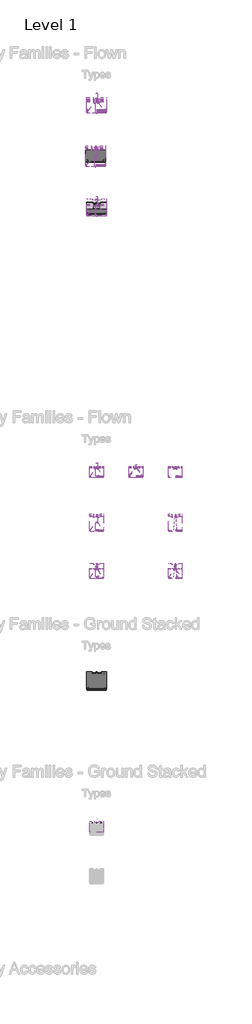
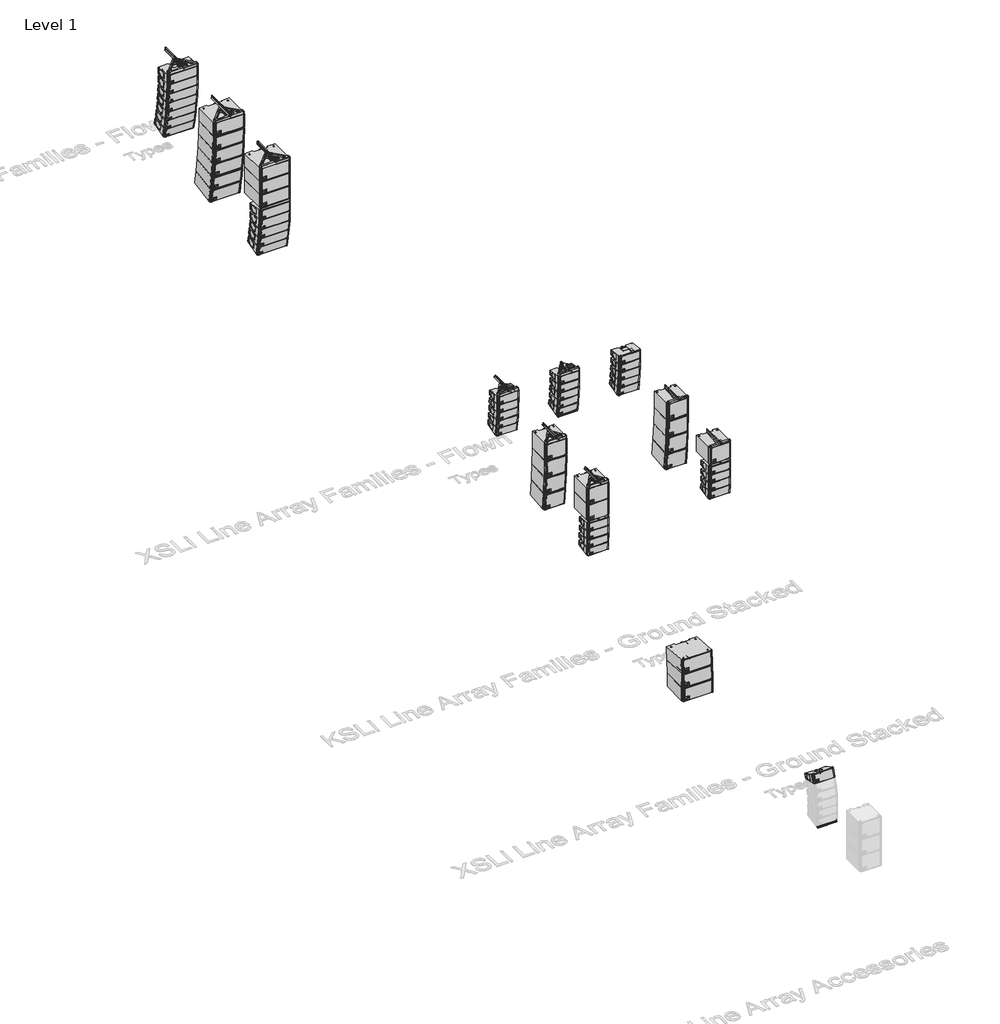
# One storey, part 3 of 52: 86 proxies.
"""IFC4 building model written with IfcOpenShell, lengths in millimetres."""

from ifc_helpers import new_model, si_unit, origin, place, context, project, spatial, transform, mapped, element, save
from components import xsl_adapter_frame_a1c6265e, xsl_adapter_frame_4c239690, communication_devices_4245e99e, communication_devices_117acdfe, communication_devices_14464fff, xsl_stacking_frame_c5b48331, xsl_stacking_frame_b9873154, communication_devices_1bfed97e, communication_devices_f4fcb6de, communication_devices_f9809a49, communication_devices_c673601c, xsl_sub_mounting_frame_72f05cd3, communication_devices_f2b9ca2b, xsl_compression_frame_79202efc, communication_devices_4d89ff1e, communication_devices_fb2c1ed3, ksl_load_beam_aa081bf2, communication_devices_b4faaad9, communication_devices_4359931a, communication_devices_46ae4256, communication_devices_b4759670, xsl_load_beam_7bbdde43

model = new_model("IFC4")

# Units and contexts
model_context = context("Model", 3, world=origin())
ifc_project = project(units=[si_unit("LENGTHUNIT", "METRE", prefix="MILLI")], contexts=[model_context])

# Site, building, storey
site = spatial("IfcSite", under=ifc_project)
building = spatial("IfcBuilding", under=site)
storey = spatial("IfcBuildingStorey", under=building, Name="Level 1", Elevation=0.0)

# Proxies
placement = place(None, origin())
xsl_adapter_frame_shape = xsl_adapter_frame_a1c6265e(model_context)
xsl_adapter_frame_2_shape = xsl_adapter_frame_4c239690(model_context)
element("IfcBuildingElementProxy", 1, Name="d&b SL-Series XSLi SUB Adapter Frame : XSLi SUB Adapter Frame", ObjectType="d&b SL-Series XSLi SUB Adapter Frame : XSLi SUB Adapter Frame", at=placement, inside=storey, context=model_context, shape_type="MappedRepresentation", body=[
    mapped(xsl_adapter_frame_shape, transform((20258.3565696, -28516.3691978, 3357.2130163), x_axis=(1.0, 0.0, 0.0), y_axis=(0.0, 1.0, 0.0), z_axis=(0.0, 0.0, 1.0))),
    mapped(xsl_adapter_frame_2_shape, transform((20258.3565696, -28516.3691978, 3357.2130163), x_axis=(1.0, 0.0, 0.0), y_axis=(0.0, 1.0, 0.0), z_axis=(0.0, 0.0, 1.0))),
])
element("IfcBuildingElementProxy", 2, Name="d&b SL-Series XSLi SUB Adapter Frame : XSLi SUB Adapter Frame", ObjectType="d&b SL-Series XSLi SUB Adapter Frame : XSLi SUB Adapter Frame", at=placement, inside=storey, context=model_context, shape_type="MappedRepresentation", body=[
    mapped(xsl_adapter_frame_shape, transform((16258.3565696, -28516.3691978, 2793.2130163), x_axis=(1.0, 0.0, 0.0), y_axis=(0.0, 1.0, 0.0), z_axis=(0.0, 0.0, 1.0))),
    mapped(xsl_adapter_frame_2_shape, transform((16258.3565696, -28516.3691978, 2793.2130163), x_axis=(1.0, 0.0, 0.0), y_axis=(0.0, 1.0, 0.0), z_axis=(0.0, 0.0, 1.0))),
])
communication_devices_shape = communication_devices_4245e99e(model_context)
communication_devices_2_shape = communication_devices_117acdfe(model_context)
communication_devices_3_shape = communication_devices_14464fff(model_context)
element("IfcBuildingElementProxy", 3, Name="d&b SL-Series XSLi : XSLi8", ObjectType="d&b SL-Series XSLi : XSLi8", at=placement, inside=storey, context=model_context, shape_type="MappedRepresentation", body=[
    mapped(communication_devices_shape, transform((15758.3565696, -23004.9862574, 3845.3), x_axis=(1.0000000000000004, 0.0, 0.0), y_axis=(0.0, 1.0000000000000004, 0.0), z_axis=(0.0, 0.0, 1.0))),
    mapped(communication_devices_2_shape, transform((15758.3565696, -23004.9862574, 3845.3), x_axis=(1.0000000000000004, 0.0, 0.0), y_axis=(0.0, 1.0000000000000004, 0.0), z_axis=(0.0, 0.0, 1.0))),
    mapped(communication_devices_3_shape, transform((15758.3565696, -23004.9862574, 3845.3), x_axis=(1.0000000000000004, 0.0, 0.0), y_axis=(0.0, 1.0000000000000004, 0.0), z_axis=(0.0, 0.0, 1.0))),
])
element("IfcBuildingElementProxy", 4, Name="d&b SL-Series XSLi : XSLi8", ObjectType="d&b SL-Series XSLi : XSLi8", at=placement, inside=storey, context=model_context, shape_type="MappedRepresentation", body=[
    mapped(communication_devices_shape, transform((15758.3565696, -22999.4148696, 3572.0554618), x_axis=(1.0000000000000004, 0.0, 0.0), y_axis=(0.0, 0.9993908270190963, 0.034899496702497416), z_axis=(0.0, -0.03489949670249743, 0.9993908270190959))),
    mapped(communication_devices_2_shape, transform((15758.3565696, -22999.4148696, 3572.0554618), x_axis=(1.0000000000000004, 0.0, 0.0), y_axis=(0.0, 0.9993908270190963, 0.034899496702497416), z_axis=(0.0, -0.03489949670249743, 0.9993908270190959))),
    mapped(communication_devices_3_shape, transform((15758.3565696, -22999.4148696, 3572.0554618), x_axis=(1.0000000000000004, 0.0, 0.0), y_axis=(0.0, 0.9993908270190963, 0.034899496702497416), z_axis=(0.0, -0.03489949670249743, 0.9993908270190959))),
])
element("IfcBuildingElementProxy", 5, Name="d&b SL-Series XSLi : XSLi8", ObjectType="d&b SL-Series XSLi : XSLi8", at=placement, inside=storey, context=model_context, shape_type="MappedRepresentation", body=[
    mapped(communication_devices_shape, transform((19758.3565696, -23004.9862574, 3845.3), x_axis=(1.0000000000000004, 0.0, 0.0), y_axis=(0.0, 1.0000000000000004, 0.0), z_axis=(0.0, 0.0, 1.0))),
    mapped(communication_devices_2_shape, transform((19758.3565696, -23004.9862574, 3845.3), x_axis=(1.0000000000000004, 0.0, 0.0), y_axis=(0.0, 1.0000000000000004, 0.0), z_axis=(0.0, 0.0, 1.0))),
    mapped(communication_devices_3_shape, transform((19758.3565696, -23004.9862574, 3845.3), x_axis=(1.0000000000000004, 0.0, 0.0), y_axis=(0.0, 1.0000000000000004, 0.0), z_axis=(0.0, 0.0, 1.0))),
])
element("IfcBuildingElementProxy", 6, Name="d&b SL-Series XSLi : XSLi8", ObjectType="d&b SL-Series XSLi : XSLi8", at=placement, inside=storey, context=model_context, shape_type="MappedRepresentation", body=[
    mapped(communication_devices_shape, transform((19758.3565696, -22999.4148696, 3572.0554618), x_axis=(1.0000000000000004, 0.0, 0.0), y_axis=(0.0, 0.9993908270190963, 0.034899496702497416), z_axis=(0.0, -0.03489949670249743, 0.9993908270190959))),
    mapped(communication_devices_2_shape, transform((19758.3565696, -22999.4148696, 3572.0554618), x_axis=(1.0000000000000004, 0.0, 0.0), y_axis=(0.0, 0.9993908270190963, 0.034899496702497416), z_axis=(0.0, -0.03489949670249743, 0.9993908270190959))),
    mapped(communication_devices_3_shape, transform((19758.3565696, -22999.4148696, 3572.0554618), x_axis=(1.0000000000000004, 0.0, 0.0), y_axis=(0.0, 0.9993908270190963, 0.034899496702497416), z_axis=(0.0, -0.03489949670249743, 0.9993908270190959))),
])
element("IfcBuildingElementProxy", 7, Name="d&b SL-Series XSLi : XSLi8", ObjectType="d&b SL-Series XSLi : XSLi8", at=placement, inside=storey, context=model_context, shape_type="MappedRepresentation", body=[
    mapped(communication_devices_shape, transform((19758.3565696, -22984.310777, 3299.1717605), x_axis=(1.0000000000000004, 0.0, 0.0), y_axis=(0.0, 0.997564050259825, 0.06975647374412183), z_axis=(0.0, -0.06975647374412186, 0.9975640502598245))),
    mapped(communication_devices_2_shape, transform((19758.3565696, -22984.310777, 3299.1717605), x_axis=(1.0000000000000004, 0.0, 0.0), y_axis=(0.0, 0.997564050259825, 0.06975647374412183), z_axis=(0.0, -0.06975647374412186, 0.9975640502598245))),
    mapped(communication_devices_3_shape, transform((19758.3565696, -22984.310777, 3299.1717605), x_axis=(1.0000000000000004, 0.0, 0.0), y_axis=(0.0, 0.997564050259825, 0.06975647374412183), z_axis=(0.0, -0.06975647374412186, 0.9975640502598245))),
])
element("IfcBuildingElementProxy", 8, Name="d&b SL-Series XSLi : XSLi8", ObjectType="d&b SL-Series XSLi : XSLi8", at=placement, inside=storey, context=model_context, shape_type="MappedRepresentation", body=[
    mapped(communication_devices_shape, transform((19758.3565696, -22959.6923815, 3026.9814179), x_axis=(1.0000000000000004, 0.0, 0.0), y_axis=(0.0, 0.9945218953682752, 0.10452846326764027), z_axis=(0.0, -0.10452846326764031, 0.9945218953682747))),
    mapped(communication_devices_2_shape, transform((19758.3565696, -22959.6923815, 3026.9814179), x_axis=(1.0000000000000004, 0.0, 0.0), y_axis=(0.0, 0.9945218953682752, 0.10452846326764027), z_axis=(0.0, -0.10452846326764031, 0.9945218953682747))),
    mapped(communication_devices_3_shape, transform((19758.3565696, -22959.6923815, 3026.9814179), x_axis=(1.0000000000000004, 0.0, 0.0), y_axis=(0.0, 0.9945218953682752, 0.10452846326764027), z_axis=(0.0, -0.10452846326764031, 0.9945218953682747))),
])
element("IfcBuildingElementProxy", 9, Name="d&b SL-Series XSLi : XSLi8", ObjectType="d&b SL-Series XSLi : XSLi8", at=placement, inside=storey, context=model_context, shape_type="MappedRepresentation", body=[
    mapped(communication_devices_shape, transform((19758.3565696, -22925.589677, 2755.8160559), x_axis=(1.0000000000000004, 0.0, 0.0), y_axis=(0.0, 0.9902680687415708, 0.13917310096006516), z_axis=(0.0, -0.13917310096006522, 0.9902680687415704))),
    mapped(communication_devices_2_shape, transform((19758.3565696, -22925.589677, 2755.8160559), x_axis=(1.0000000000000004, 0.0, 0.0), y_axis=(0.0, 0.9902680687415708, 0.13917310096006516), z_axis=(0.0, -0.13917310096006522, 0.9902680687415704))),
    mapped(communication_devices_3_shape, transform((19758.3565696, -22925.589677, 2755.8160559), x_axis=(1.0000000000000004, 0.0, 0.0), y_axis=(0.0, 0.9902680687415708, 0.13917310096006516), z_axis=(0.0, -0.13917310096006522, 0.9902680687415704))),
])
element("IfcBuildingElementProxy", 10, Name="d&b SL-Series XSLi : XSLi8", ObjectType="d&b SL-Series XSLi : XSLi8", at=placement, inside=storey, context=model_context, shape_type="MappedRepresentation", body=[
    mapped(communication_devices_shape, transform((15758.3565696, -22984.310777, 3299.1717605), x_axis=(1.0000000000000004, 0.0, 0.0), y_axis=(0.0, 0.997564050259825, 0.06975647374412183), z_axis=(0.0, -0.06975647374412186, 0.9975640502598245))),
    mapped(communication_devices_2_shape, transform((15758.3565696, -22984.310777, 3299.1717605), x_axis=(1.0000000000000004, 0.0, 0.0), y_axis=(0.0, 0.997564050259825, 0.06975647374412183), z_axis=(0.0, -0.06975647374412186, 0.9975640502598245))),
    mapped(communication_devices_3_shape, transform((15758.3565696, -22984.310777, 3299.1717605), x_axis=(1.0000000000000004, 0.0, 0.0), y_axis=(0.0, 0.997564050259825, 0.06975647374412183), z_axis=(0.0, -0.06975647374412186, 0.9975640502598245))),
])
element("IfcBuildingElementProxy", 11, Name="d&b SL-Series XSLi : XSLi8", ObjectType="d&b SL-Series XSLi : XSLi8", at=placement, inside=storey, context=model_context, shape_type="MappedRepresentation", body=[
    mapped(communication_devices_shape, transform((15758.3565696, -22959.6923815, 3026.9814179), x_axis=(1.0000000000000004, 0.0, 0.0), y_axis=(0.0, 0.9945218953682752, 0.10452846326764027), z_axis=(0.0, -0.10452846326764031, 0.9945218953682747))),
    mapped(communication_devices_2_shape, transform((15758.3565696, -22959.6923815, 3026.9814179), x_axis=(1.0000000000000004, 0.0, 0.0), y_axis=(0.0, 0.9945218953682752, 0.10452846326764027), z_axis=(0.0, -0.10452846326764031, 0.9945218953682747))),
    mapped(communication_devices_3_shape, transform((15758.3565696, -22959.6923815, 3026.9814179), x_axis=(1.0000000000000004, 0.0, 0.0), y_axis=(0.0, 0.9945218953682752, 0.10452846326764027), z_axis=(0.0, -0.10452846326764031, 0.9945218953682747))),
])
element("IfcBuildingElementProxy", 12, Name="d&b SL-Series XSLi : XSLi8", ObjectType="d&b SL-Series XSLi : XSLi8", at=placement, inside=storey, context=model_context, shape_type="MappedRepresentation", body=[
    mapped(communication_devices_shape, transform((15758.3565696, -22925.589677, 2755.8160559), x_axis=(1.0000000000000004, 0.0, 0.0), y_axis=(0.0, 0.9902680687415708, 0.13917310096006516), z_axis=(0.0, -0.13917310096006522, 0.9902680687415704))),
    mapped(communication_devices_2_shape, transform((15758.3565696, -22925.589677, 2755.8160559), x_axis=(1.0000000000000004, 0.0, 0.0), y_axis=(0.0, 0.9902680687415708, 0.13917310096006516), z_axis=(0.0, -0.13917310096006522, 0.9902680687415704))),
    mapped(communication_devices_3_shape, transform((15758.3565696, -22925.589677, 2755.8160559), x_axis=(1.0000000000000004, 0.0, 0.0), y_axis=(0.0, 0.9902680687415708, 0.13917310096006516), z_axis=(0.0, -0.13917310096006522, 0.9902680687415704))),
])
element("IfcBuildingElementProxy", 13, Name="d&b SL-Series XSLi : XSLi8", ObjectType="d&b SL-Series XSLi : XSLi8", at=placement, inside=storey, context=model_context, shape_type="MappedRepresentation", body=[
    mapped(communication_devices_shape, transform((17758.3565696, -23004.9862574, 3845.3), x_axis=(1.0000000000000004, 0.0, 0.0), y_axis=(0.0, 1.0000000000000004, 0.0), z_axis=(0.0, 0.0, 1.0))),
    mapped(communication_devices_2_shape, transform((17758.3565696, -23004.9862574, 3845.3), x_axis=(1.0000000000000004, 0.0, 0.0), y_axis=(0.0, 1.0000000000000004, 0.0), z_axis=(0.0, 0.0, 1.0))),
    mapped(communication_devices_3_shape, transform((17758.3565696, -23004.9862574, 3845.3), x_axis=(1.0000000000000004, 0.0, 0.0), y_axis=(0.0, 1.0000000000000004, 0.0), z_axis=(0.0, 0.0, 1.0))),
])
element("IfcBuildingElementProxy", 14, Name="d&b SL-Series XSLi : XSLi8", ObjectType="d&b SL-Series XSLi : XSLi8", at=placement, inside=storey, context=model_context, shape_type="MappedRepresentation", body=[
    mapped(communication_devices_shape, transform((17758.3565696, -22999.4148696, 3572.0554618), x_axis=(1.0000000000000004, 0.0, 0.0), y_axis=(0.0, 0.9993908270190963, 0.034899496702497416), z_axis=(0.0, -0.03489949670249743, 0.9993908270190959))),
    mapped(communication_devices_2_shape, transform((17758.3565696, -22999.4148696, 3572.0554618), x_axis=(1.0000000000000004, 0.0, 0.0), y_axis=(0.0, 0.9993908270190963, 0.034899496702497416), z_axis=(0.0, -0.03489949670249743, 0.9993908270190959))),
    mapped(communication_devices_3_shape, transform((17758.3565696, -22999.4148696, 3572.0554618), x_axis=(1.0000000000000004, 0.0, 0.0), y_axis=(0.0, 0.9993908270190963, 0.034899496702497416), z_axis=(0.0, -0.03489949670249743, 0.9993908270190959))),
])
element("IfcBuildingElementProxy", 15, Name="d&b SL-Series XSLi : XSLi8", ObjectType="d&b SL-Series XSLi : XSLi8", at=placement, inside=storey, context=model_context, shape_type="MappedRepresentation", body=[
    mapped(communication_devices_shape, transform((17758.3565696, -22984.310777, 3299.1717605), x_axis=(1.0000000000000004, 0.0, 0.0), y_axis=(0.0, 0.997564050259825, 0.06975647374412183), z_axis=(0.0, -0.06975647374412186, 0.9975640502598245))),
    mapped(communication_devices_2_shape, transform((17758.3565696, -22984.310777, 3299.1717605), x_axis=(1.0000000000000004, 0.0, 0.0), y_axis=(0.0, 0.997564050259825, 0.06975647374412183), z_axis=(0.0, -0.06975647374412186, 0.9975640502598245))),
    mapped(communication_devices_3_shape, transform((17758.3565696, -22984.310777, 3299.1717605), x_axis=(1.0000000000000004, 0.0, 0.0), y_axis=(0.0, 0.997564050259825, 0.06975647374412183), z_axis=(0.0, -0.06975647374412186, 0.9975640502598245))),
])
element("IfcBuildingElementProxy", 16, Name="d&b SL-Series XSLi : XSLi8", ObjectType="d&b SL-Series XSLi : XSLi8", at=placement, inside=storey, context=model_context, shape_type="MappedRepresentation", body=[
    mapped(communication_devices_shape, transform((17758.3565696, -22959.6923815, 3026.9814179), x_axis=(1.0000000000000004, 0.0, 0.0), y_axis=(0.0, 0.9945218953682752, 0.10452846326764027), z_axis=(0.0, -0.10452846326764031, 0.9945218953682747))),
    mapped(communication_devices_2_shape, transform((17758.3565696, -22959.6923815, 3026.9814179), x_axis=(1.0000000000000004, 0.0, 0.0), y_axis=(0.0, 0.9945218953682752, 0.10452846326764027), z_axis=(0.0, -0.10452846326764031, 0.9945218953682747))),
    mapped(communication_devices_3_shape, transform((17758.3565696, -22959.6923815, 3026.9814179), x_axis=(1.0000000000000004, 0.0, 0.0), y_axis=(0.0, 0.9945218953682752, 0.10452846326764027), z_axis=(0.0, -0.10452846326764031, 0.9945218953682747))),
])
element("IfcBuildingElementProxy", 17, Name="d&b SL-Series XSLi : XSLi8", ObjectType="d&b SL-Series XSLi : XSLi8", at=placement, inside=storey, context=model_context, shape_type="MappedRepresentation", body=[
    mapped(communication_devices_shape, transform((17758.3565696, -22925.589677, 2755.8160559), x_axis=(1.0000000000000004, 0.0, 0.0), y_axis=(0.0, 0.9902680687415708, 0.13917310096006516), z_axis=(0.0, -0.13917310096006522, 0.9902680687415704))),
    mapped(communication_devices_2_shape, transform((17758.3565696, -22925.589677, 2755.8160559), x_axis=(1.0000000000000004, 0.0, 0.0), y_axis=(0.0, 0.9902680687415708, 0.13917310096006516), z_axis=(0.0, -0.13917310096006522, 0.9902680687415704))),
    mapped(communication_devices_3_shape, transform((17758.3565696, -22925.589677, 2755.8160559), x_axis=(1.0000000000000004, 0.0, 0.0), y_axis=(0.0, 0.9902680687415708, 0.13917310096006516), z_axis=(0.0, -0.13917310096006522, 0.9902680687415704))),
])
element("IfcBuildingElementProxy", 18, Name="d&b SL-Series XSLi : XSLi8", ObjectType="d&b SL-Series XSLi : XSLi8", at=placement, inside=storey, context=model_context, shape_type="MappedRepresentation", body=[
    mapped(communication_devices_shape, transform((15758.3565696, -40981.8081117, 1478.2276122), x_axis=(1.0, 0.0, 0.0), y_axis=(0.0, 0.9396926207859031, -0.3420201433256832), z_axis=(0.0, 0.3420201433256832, 0.9396926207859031))),
    mapped(communication_devices_2_shape, transform((15758.3565696, -40981.8081117, 1478.2276122), x_axis=(1.0, 0.0, 0.0), y_axis=(0.0, 0.9396926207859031, -0.3420201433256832), z_axis=(0.0, 0.3420201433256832, 0.9396926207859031))),
    mapped(communication_devices_3_shape, transform((15758.3565696, -40981.8081117, 1478.2276122), x_axis=(1.0, 0.0, 0.0), y_axis=(0.0, 0.9396926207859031, -0.3420201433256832), z_axis=(0.0, 0.3420201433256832, 0.9396926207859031))),
])
element("IfcBuildingElementProxy", 19, Name="d&b SL-Series XSLi : XSLi8", ObjectType="d&b SL-Series XSLi : XSLi8", at=placement, inside=storey, context=model_context, shape_type="MappedRepresentation", body=[
    mapped(communication_devices_shape, transform((19758.3565696, -28125.2493673, 3117.0130163), x_axis=(1.0, 0.0, 0.0), y_axis=(0.0, 1.0, 0.0), z_axis=(0.0, 0.0, 1.0))),
    mapped(communication_devices_2_shape, transform((19758.3565696, -28125.2493673, 3117.0130163), x_axis=(1.0, 0.0, 0.0), y_axis=(0.0, 1.0, 0.0), z_axis=(0.0, 0.0, 1.0))),
    mapped(communication_devices_3_shape, transform((19758.3565696, -28125.2493673, 3117.0130163), x_axis=(1.0, 0.0, 0.0), y_axis=(0.0, 1.0, 0.0), z_axis=(0.0, 0.0, 1.0))),
])
element("IfcBuildingElementProxy", 20, Name="d&b SL-Series XSLi : XSLi8", ObjectType="d&b SL-Series XSLi : XSLi8", at=placement, inside=storey, context=model_context, shape_type="MappedRepresentation", body=[
    mapped(communication_devices_shape, transform((19758.3565696, -28125.2493673, 2831.5530711), x_axis=(1.0, 0.0, 0.0), y_axis=(0.0, 1.0, 0.0), z_axis=(0.0, 0.0, 1.0))),
    mapped(communication_devices_2_shape, transform((19758.3565696, -28125.2493673, 2831.5530711), x_axis=(1.0, 0.0, 0.0), y_axis=(0.0, 1.0, 0.0), z_axis=(0.0, 0.0, 1.0))),
    mapped(communication_devices_3_shape, transform((19758.3565696, -28125.2493673, 2831.5530711), x_axis=(1.0, 0.0, 0.0), y_axis=(0.0, 1.0, 0.0), z_axis=(0.0, 0.0, 1.0))),
])
element("IfcBuildingElementProxy", 21, Name="d&b SL-Series XSLi : XSLi8", ObjectType="d&b SL-Series XSLi : XSLi8", at=placement, inside=storey, context=model_context, shape_type="MappedRepresentation", body=[
    mapped(communication_devices_shape, transform((19758.3565696, -28119.6779795, 2558.3085329), x_axis=(1.0, 0.0, 0.0), y_axis=(0.0, 0.999390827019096, 0.03489949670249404), z_axis=(0.0, -0.03489949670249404, 0.999390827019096))),
    mapped(communication_devices_2_shape, transform((19758.3565696, -28119.6779795, 2558.3085329), x_axis=(1.0, 0.0, 0.0), y_axis=(0.0, 0.999390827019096, 0.03489949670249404), z_axis=(0.0, -0.03489949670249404, 0.999390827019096))),
    mapped(communication_devices_3_shape, transform((19758.3565696, -28119.6779795, 2558.3085329), x_axis=(1.0, 0.0, 0.0), y_axis=(0.0, 0.999390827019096, 0.03489949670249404), z_axis=(0.0, -0.03489949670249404, 0.999390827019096))),
])
element("IfcBuildingElementProxy", 22, Name="d&b SL-Series XSLi : XSLi8", ObjectType="d&b SL-Series XSLi : XSLi8", at=placement, inside=storey, context=model_context, shape_type="MappedRepresentation", body=[
    mapped(communication_devices_shape, transform((19758.3565696, -28104.5738887, 2285.4248865), x_axis=(1.0, 0.0, 0.0), y_axis=(0.0, 0.9975640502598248, 0.06975647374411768), z_axis=(0.0, -0.06975647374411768, 0.9975640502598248))),
    mapped(communication_devices_2_shape, transform((19758.3565696, -28104.5738887, 2285.4248865), x_axis=(1.0, 0.0, 0.0), y_axis=(0.0, 0.9975640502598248, 0.06975647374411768), z_axis=(0.0, -0.06975647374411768, 0.9975640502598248))),
    mapped(communication_devices_3_shape, transform((19758.3565696, -28104.5738887, 2285.4248865), x_axis=(1.0, 0.0, 0.0), y_axis=(0.0, 0.9975640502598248, 0.06975647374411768), z_axis=(0.0, -0.06975647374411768, 0.9975640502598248))),
])
element("IfcBuildingElementProxy", 23, Name="d&b SL-Series XSLi : XSLi8", ObjectType="d&b SL-Series XSLi : XSLi8", at=placement, inside=storey, context=model_context, shape_type="MappedRepresentation", body=[
    mapped(communication_devices_shape, transform((15758.3565696, -28125.2493673, 2553.0130163), x_axis=(1.0, 0.0, 0.0), y_axis=(0.0, 1.0, 0.0), z_axis=(0.0, 0.0, 1.0))),
    mapped(communication_devices_2_shape, transform((15758.3565696, -28125.2493673, 2553.0130163), x_axis=(1.0, 0.0, 0.0), y_axis=(0.0, 1.0, 0.0), z_axis=(0.0, 0.0, 1.0))),
    mapped(communication_devices_3_shape, transform((15758.3565696, -28125.2493673, 2553.0130163), x_axis=(1.0, 0.0, 0.0), y_axis=(0.0, 1.0, 0.0), z_axis=(0.0, 0.0, 1.0))),
])
element("IfcBuildingElementProxy", 24, Name="d&b SL-Series XSLi : XSLi8", ObjectType="d&b SL-Series XSLi : XSLi8", at=placement, inside=storey, context=model_context, shape_type="MappedRepresentation", body=[
    mapped(communication_devices_shape, transform((15758.3565696, -28125.2493673, 2267.5530711), x_axis=(1.0, 0.0, 0.0), y_axis=(0.0, 1.0, 0.0), z_axis=(0.0, 0.0, 1.0))),
    mapped(communication_devices_2_shape, transform((15758.3565696, -28125.2493673, 2267.5530711), x_axis=(1.0, 0.0, 0.0), y_axis=(0.0, 1.0, 0.0), z_axis=(0.0, 0.0, 1.0))),
    mapped(communication_devices_3_shape, transform((15758.3565696, -28125.2493673, 2267.5530711), x_axis=(1.0, 0.0, 0.0), y_axis=(0.0, 1.0, 0.0), z_axis=(0.0, 0.0, 1.0))),
])
element("IfcBuildingElementProxy", 25, Name="d&b SL-Series XSLi : XSLi8", ObjectType="d&b SL-Series XSLi : XSLi8", at=placement, inside=storey, context=model_context, shape_type="MappedRepresentation", body=[
    mapped(communication_devices_shape, transform((15758.3565696, -28119.6779795, 1994.3085329), x_axis=(1.0, 0.0, 0.0), y_axis=(0.0, 0.9993908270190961, 0.03489949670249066), z_axis=(0.0, -0.03489949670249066, 0.9993908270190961))),
    mapped(communication_devices_2_shape, transform((15758.3565696, -28119.6779795, 1994.3085329), x_axis=(1.0, 0.0, 0.0), y_axis=(0.0, 0.9993908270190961, 0.03489949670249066), z_axis=(0.0, -0.03489949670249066, 0.9993908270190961))),
    mapped(communication_devices_3_shape, transform((15758.3565696, -28119.6779795, 1994.3085329), x_axis=(1.0, 0.0, 0.0), y_axis=(0.0, 0.9993908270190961, 0.03489949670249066), z_axis=(0.0, -0.03489949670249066, 0.9993908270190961))),
])
element("IfcBuildingElementProxy", 26, Name="d&b SL-Series XSLi : XSLi8", ObjectType="d&b SL-Series XSLi : XSLi8", at=placement, inside=storey, context=model_context, shape_type="MappedRepresentation", body=[
    mapped(communication_devices_shape, transform((15758.3565696, -28104.5738887, 1721.4248865), x_axis=(1.0, 0.0, 0.0), y_axis=(0.0, 0.997564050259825, 0.06975647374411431), z_axis=(0.0, -0.06975647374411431, 0.997564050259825))),
    mapped(communication_devices_2_shape, transform((15758.3565696, -28104.5738887, 1721.4248865), x_axis=(1.0, 0.0, 0.0), y_axis=(0.0, 0.997564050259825, 0.06975647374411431), z_axis=(0.0, -0.06975647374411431, 0.997564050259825))),
    mapped(communication_devices_3_shape, transform((15758.3565696, -28104.5738887, 1721.4248865), x_axis=(1.0, 0.0, 0.0), y_axis=(0.0, 0.997564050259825, 0.06975647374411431), z_axis=(0.0, -0.06975647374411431, 0.997564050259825))),
])
xsl_stacking_frame_shape = xsl_stacking_frame_c5b48331(model_context)
xsl_stacking_frame_2_shape = xsl_stacking_frame_b9873154(model_context)
element("IfcBuildingElementProxy", 27, Name="d&b SL-Series XSLi Stacking Frame : XSLi Stacking Frame", ObjectType="d&b SL-Series XSLi Stacking Frame : XSLi Stacking Frame", at=placement, inside=storey, context=model_context, shape_type="MappedRepresentation", body=[
    mapped(xsl_stacking_frame_shape, transform((16258.3565696, -41472.4107347, 0.0), x_axis=(1.0, 0.0, 0.0), y_axis=(0.0, 1.0, 0.0), z_axis=(0.0, 0.0, 1.0))),
    mapped(xsl_stacking_frame_2_shape, transform((16258.3565696, -41472.4107347, 0.0), x_axis=(1.0, 0.0, 0.0), y_axis=(0.0, 1.0, 0.0), z_axis=(0.0, 0.0, 1.0))),
])
communication_devices_4_shape = communication_devices_1bfed97e(model_context)
element("IfcBuildingElementProxy", 28, Name="d&b SL-Series KSLi-SUB : KSLi-SUB", ObjectType="d&b SL-Series KSLi-SUB : KSLi-SUB", at=placement, inside=storey, context=model_context, shape_type="MappedRepresentation", body=[
    mapped(communication_devices_4_shape, transform((13705.3359488, -7320.4932711, 3544.0), x_axis=(1.0000000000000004, 0.0, 0.0), y_axis=(0.0, 1.0000000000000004, 0.0), z_axis=(0.0, 0.0, 1.0))),
])
element("IfcBuildingElementProxy", 29, Name="d&b SL-Series KSLi-SUB : KSLi-SUB", ObjectType="d&b SL-Series KSLi-SUB : KSLi-SUB", at=placement, inside=storey, context=model_context, shape_type="MappedRepresentation", body=[
    mapped(communication_devices_4_shape, transform((13758.3565696, -9830.2493673, 3464.0), x_axis=(1.0000000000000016, 0.0, 0.0), y_axis=(0.0, 1.0000000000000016, 0.0), z_axis=(0.0, 0.0, 1.0))),
])
element("IfcBuildingElementProxy", 30, Name="d&b SL-Series KSLi-SUB : KSLi-SUB", ObjectType="d&b SL-Series KSLi-SUB : KSLi-SUB", at=placement, inside=storey, context=model_context, shape_type="MappedRepresentation", body=[
    mapped(communication_devices_4_shape, transform((13758.3565696, -9830.2493673, 3010.5163859), x_axis=(1.0000000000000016, 0.0, 0.0), y_axis=(0.0, 1.0000000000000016, 0.0), z_axis=(0.0, 0.0, 1.0))),
])
element("IfcBuildingElementProxy", 31, Name="d&b SL-Series KSLi-SUB : KSLi-SUB", ObjectType="d&b SL-Series KSLi-SUB : KSLi-SUB", at=placement, inside=storey, context=model_context, shape_type="MappedRepresentation", body=[
    mapped(communication_devices_4_shape, transform((13758.3565696, -9830.2493673, 2557.0327717), x_axis=(1.0000000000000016, 0.0, 0.0), y_axis=(0.0, 1.0000000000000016, 0.0), z_axis=(0.0, 0.0, 1.0))),
])
element("IfcBuildingElementProxy", 32, Name="d&b SL-Series KSLi-SUB : KSLi-SUB", ObjectType="d&b SL-Series KSLi-SUB : KSLi-SUB", at=placement, inside=storey, context=model_context, shape_type="MappedRepresentation", body=[
    mapped(communication_devices_4_shape, transform((13758.3565696, -33879.0082326, 949.8960798), x_axis=(1.0000000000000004, 0.0, 0.0), y_axis=(0.0, 0.9975640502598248, -0.0697564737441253), z_axis=(0.0, 0.06975647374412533, 0.9975640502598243))),
])
communication_devices_5_shape = communication_devices_f4fcb6de(model_context)
element("IfcBuildingElementProxy", 33, Name="d&b SL-Series KSLi-SUB : KSLi-SUB", ObjectType="d&b SL-Series KSLi-SUB : KSLi-SUB", at=placement, inside=storey, context=model_context, shape_type="MappedRepresentation", body=[
    mapped(communication_devices_5_shape, transform((13705.3359488, -7302.5840714, 3060.5662524), x_axis=(1.0000000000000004, 0.0, 0.0), y_axis=(0.0, 0.9993908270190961, 0.03489949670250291), z_axis=(0.0, -0.034899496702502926, 0.9993908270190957))),
])
element("IfcBuildingElementProxy", 34, Name="d&b SL-Series KSLi-SUB : KSLi-SUB", ObjectType="d&b SL-Series KSLi-SUB : KSLi-SUB", at=placement, inside=storey, context=model_context, shape_type="MappedRepresentation", body=[
    mapped(communication_devices_5_shape, transform((13705.3359488, -7267.8141871, 2578.0520217), x_axis=(1.0000000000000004, 0.0, 0.0), y_axis=(0.0, 0.9975640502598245, 0.06975647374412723), z_axis=(0.0, -0.06975647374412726, 0.9975640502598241))),
])
element("IfcBuildingElementProxy", 35, Name="d&b SL-Series KSLi-SUB : KSLi-SUB", ObjectType="d&b SL-Series KSLi-SUB : KSLi-SUB", at=placement, inside=storey, context=model_context, shape_type="MappedRepresentation", body=[
    mapped(communication_devices_5_shape, transform((13705.3359488, -7216.2265496, 2097.0451272), x_axis=(1.0000000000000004, 0.0, 0.0), y_axis=(0.0, 0.9945218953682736, 0.1045284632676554), z_axis=(0.0, -0.10452846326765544, 0.9945218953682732))),
])
element("IfcBuildingElementProxy", 36, Name="d&b SL-Series KSLi-SUB : KSLi-SUB", ObjectType="d&b SL-Series KSLi-SUB : KSLi-SUB", at=placement, inside=storey, context=model_context, shape_type="MappedRepresentation", body=[
    mapped(communication_devices_5_shape, transform((13705.3359488, -7147.884007, 1618.131562), x_axis=(1.0000000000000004, 0.0, 0.0), y_axis=(0.0, 0.9902680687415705, 0.13917310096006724), z_axis=(0.0, -0.1391731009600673, 0.99026806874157))),
])
element("IfcBuildingElementProxy", 37, Name="d&b SL-Series KSLi-SUB : KSLi-SUB", ObjectType="d&b SL-Series KSLi-SUB : KSLi-SUB", at=placement, inside=storey, context=model_context, shape_type="MappedRepresentation", body=[
    mapped(communication_devices_5_shape, transform((13705.3359488, -7062.8698194, 1141.8947689), x_axis=(1.0000000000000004, 0.0, 0.0), y_axis=(0.0, 0.9848077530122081, 0.1736481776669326), z_axis=(0.0, -0.1736481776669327, 0.9848077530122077))),
])
element("IfcBuildingElementProxy", 38, Name="d&b SL-Series KSLi-SUB : KSLi-SUB", ObjectType="d&b SL-Series KSLi-SUB : KSLi-SUB", at=placement, inside=storey, context=model_context, shape_type="MappedRepresentation", body=[
    mapped(communication_devices_5_shape, transform((13758.3565696, -33893.2313251, 0.0), x_axis=(1.0000000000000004, 0.0, 0.0), y_axis=(0.0, 1.0000000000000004, 0.0), z_axis=(0.0, 0.0, 1.0))),
])
element("IfcBuildingElementProxy", 39, Name="d&b SL-Series KSLi-SUB : KSLi-SUB", ObjectType="d&b SL-Series KSLi-SUB : KSLi-SUB", at=placement, inside=storey, context=model_context, shape_type="MappedRepresentation", body=[
    mapped(communication_devices_5_shape, transform((13758.3565696, -33894.40917, 475.0885383), x_axis=(1.0000000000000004, 0.0, 0.0), y_axis=(0.0, 0.9993908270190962, -0.03489949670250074), z_axis=(0.0, 0.034899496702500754, 0.9993908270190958))),
])
communication_devices_6_shape = communication_devices_f9809a49(model_context)
element("IfcBuildingElementProxy", 40, Name="d&b SL-Series XSLi-SUB : XSLi-SUB", ObjectType="d&b SL-Series XSLi-SUB : XSLi-SUB", at=placement, inside=storey, context=model_context, shape_type="MappedRepresentation", body=[
    mapped(communication_devices_6_shape, transform((13758.3565696, -28428.3743673, 3348.1966304), x_axis=(1.0, 0.0, 0.0), y_axis=(0.0, 1.0, 0.0), z_axis=(0.0, 0.0, 1.0))),
])
element("IfcBuildingElementProxy", 41, Name="d&b SL-Series XSLi-SUB : XSLi-SUB", ObjectType="d&b SL-Series XSLi-SUB : XSLi-SUB", at=placement, inside=storey, context=model_context, shape_type="MappedRepresentation", body=[
    mapped(communication_devices_6_shape, transform((13758.3565696, -28428.3743673, 2784.1966304), x_axis=(1.0, 0.0, 0.0), y_axis=(0.0, 1.0, 0.0), z_axis=(0.0, 0.0, 1.0))),
])
element("IfcBuildingElementProxy", 42, Name="d&b SL-Series XSLi-SUB : XSLi-SUB", ObjectType="d&b SL-Series XSLi-SUB : XSLi-SUB", at=placement, inside=storey, context=model_context, shape_type="MappedRepresentation", body=[
    mapped(communication_devices_6_shape, transform((17758.3565696, -28428.3743673, 3348.1966304), x_axis=(1.0, 0.0, 0.0), y_axis=(0.0, 1.0, 0.0), z_axis=(0.0, 0.0, 1.0))),
])
element("IfcBuildingElementProxy", 43, Name="d&b SL-Series XSLi-SUB : XSLi-SUB", ObjectType="d&b SL-Series XSLi-SUB : XSLi-SUB", at=placement, inside=storey, context=model_context, shape_type="MappedRepresentation", body=[
    mapped(communication_devices_6_shape, transform((13758.3565696, -26037.8682711, 3428.1966304), x_axis=(1.0000000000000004, 0.0, 0.0), y_axis=(0.0, 1.0000000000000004, 0.0), z_axis=(0.0, 0.0, 1.0))),
])
element("IfcBuildingElementProxy", 44, Name="d&b SL-Series XSLi-SUB : XSLi-SUB", ObjectType="d&b SL-Series XSLi-SUB : XSLi-SUB", at=placement, inside=storey, context=model_context, shape_type="MappedRepresentation", body=[
    mapped(communication_devices_6_shape, transform((17758.3565696, -26037.8682711, 3428.1966304), x_axis=(1.0000000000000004, 0.0, 0.0), y_axis=(0.0, 1.0000000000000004, 0.0), z_axis=(0.0, 0.0, 1.0))),
])
communication_devices_7_shape = communication_devices_c673601c(model_context)
element("IfcBuildingElementProxy", 45, Name="d&b SL-Series XSLi-SUB : XSLi-SUB", ObjectType="d&b SL-Series XSLi-SUB : XSLi-SUB", at=placement, inside=storey, context=model_context, shape_type="MappedRepresentation", body=[
    mapped(communication_devices_7_shape, transform((13758.3565696, -26015.5265803, 2833.0550352), x_axis=(1.0000000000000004, 0.0, 0.0), y_axis=(0.0, 0.9993908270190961, 0.03489949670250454), z_axis=(0.0, -0.03489949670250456, 0.9993908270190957))),
])
element("IfcBuildingElementProxy", 46, Name="d&b SL-Series XSLi-SUB : XSLi-SUB", ObjectType="d&b SL-Series XSLi-SUB : XSLi-SUB", at=placement, inside=storey, context=model_context, shape_type="MappedRepresentation", body=[
    mapped(communication_devices_7_shape, transform((13758.3565696, -25972.9751575, 2239.0140093), x_axis=(1.0000000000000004, 0.0, 0.0), y_axis=(0.0, 0.9975640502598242, 0.06975647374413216), z_axis=(0.0, -0.06975647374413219, 0.9975640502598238))),
])
element("IfcBuildingElementProxy", 47, Name="d&b SL-Series XSLi-SUB : XSLi-SUB", ObjectType="d&b SL-Series XSLi-SUB : XSLi-SUB", at=placement, inside=storey, context=model_context, shape_type="MappedRepresentation", body=[
    mapped(communication_devices_7_shape, transform((13758.3565696, -25909.7179231, 1646.8198804), x_axis=(1.0000000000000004, 0.0, 0.0), y_axis=(0.0, 0.9945218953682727, 0.10452846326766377), z_axis=(0.0, -0.10452846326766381, 0.9945218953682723))),
])
element("IfcBuildingElementProxy", 48, Name="d&b SL-Series XSLi-SUB : XSLi-SUB", ObjectType="d&b SL-Series XSLi-SUB : XSLi-SUB", at=placement, inside=storey, context=model_context, shape_type="MappedRepresentation", body=[
    mapped(communication_devices_7_shape, transform((17758.3565696, -26015.5265803, 2833.0550352), x_axis=(1.0000000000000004, 0.0, 0.0), y_axis=(0.0, 0.9993908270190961, 0.03489949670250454), z_axis=(0.0, -0.03489949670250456, 0.9993908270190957))),
])
element("IfcBuildingElementProxy", 49, Name="d&b SL-Series XSLi-SUB : XSLi-SUB", ObjectType="d&b SL-Series XSLi-SUB : XSLi-SUB", at=placement, inside=storey, context=model_context, shape_type="MappedRepresentation", body=[
    mapped(communication_devices_7_shape, transform((17758.3565696, -25972.9751575, 2239.0140093), x_axis=(1.0000000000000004, 0.0, 0.0), y_axis=(0.0, 0.9975640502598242, 0.06975647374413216), z_axis=(0.0, -0.06975647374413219, 0.9975640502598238))),
])
element("IfcBuildingElementProxy", 50, Name="d&b SL-Series XSLi-SUB : XSLi-SUB", ObjectType="d&b SL-Series XSLi-SUB : XSLi-SUB", at=placement, inside=storey, context=model_context, shape_type="MappedRepresentation", body=[
    mapped(communication_devices_7_shape, transform((17758.3565696, -25909.7179231, 1646.8198804), x_axis=(1.0000000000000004, 0.0, 0.0), y_axis=(0.0, 0.9945218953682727, 0.10452846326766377), z_axis=(0.0, -0.10452846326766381, 0.9945218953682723))),
])
xsl_sub_mounting_frame_shape = xsl_sub_mounting_frame_72f05cd3(model_context)
communication_devices_8_shape = communication_devices_f2b9ca2b(model_context)
element("IfcBuildingElementProxy", 51, Name="d&b SL-Series XSLi SUB Mounting Frame : XSLi SUB Mounting Frame", ObjectType="d&b SL-Series XSLi SUB Mounting Frame : XSLi SUB Mounting Frame", at=placement, inside=storey, context=model_context, shape_type="MappedRepresentation", body=[
    mapped(xsl_sub_mounting_frame_shape, transform((20258.3565696, -28472.3737699, 3931.0), x_axis=(1.0, 0.0, 0.0), y_axis=(0.0, 1.0, 0.0), z_axis=(0.0, 0.0, 1.0))),
    mapped(communication_devices_8_shape, transform((20258.3565696, -28472.3737699, 3931.0), x_axis=(1.0, 0.0, 0.0), y_axis=(0.0, 1.0, 0.0), z_axis=(0.0, 0.0, 1.0))),
])
element("IfcBuildingElementProxy", 52, Name="d&b SL-Series XSLi SUB Mounting Frame : XSLi SUB Mounting Frame", ObjectType="d&b SL-Series XSLi SUB Mounting Frame : XSLi SUB Mounting Frame", at=placement, inside=storey, context=model_context, shape_type="MappedRepresentation", body=[
    mapped(xsl_sub_mounting_frame_shape, transform((20258.3565696, -26081.8676738, 4011.0), x_axis=(1.0000000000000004, 0.0, 0.0), y_axis=(0.0, 1.0000000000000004, 0.0), z_axis=(0.0, 0.0, 1.0))),
    mapped(communication_devices_8_shape, transform((20258.3565696, -26081.8676738, 4011.0), x_axis=(1.0000000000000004, 0.0, 0.0), y_axis=(0.0, 1.0000000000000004, 0.0), z_axis=(0.0, 0.0, 1.0))),
])
xsl_compression_frame_shape = xsl_compression_frame_79202efc(model_context)
element("IfcBuildingElementProxy", 53, Name="d&b SL-Series XSLi Pullback Frame : XSLi Pullback Frame", ObjectType="d&b SL-Series XSLi Pullback Frame : XSLi Pullback Frame", at=placement, inside=storey, context=model_context, shape_type="MappedRepresentation", body=[
    mapped(xsl_compression_frame_shape, transform((18258.3565696, -23294.8120218, 2572.6575861), x_axis=(1.0000000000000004, 0.0, 0.0), y_axis=(0.0, 0.9902680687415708, 0.13917310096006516), z_axis=(0.0, -0.13917310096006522, 0.9902680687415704))),
])
communication_devices_9_shape = communication_devices_4d89ff1e(model_context)
element("IfcBuildingElementProxy", 54, Name="d&b SL-Series XSLi Flying Frame : XSLi Flying Frame", ObjectType="d&b SL-Series XSLi Flying Frame : XSLi Flying Frame", at=placement, inside=storey, context=model_context, shape_type="MappedRepresentation", body=[
    mapped(communication_devices_9_shape, transform((16258.3565696, -26081.8676738, 4011.0), x_axis=(1.0000000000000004, 0.0, 0.0), y_axis=(0.0, 1.0000000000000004, 0.0), z_axis=(0.0, 0.0, 1.0))),
])
element("IfcBuildingElementProxy", 55, Name="d&b SL-Series XSLi Flying Frame : XSLi Flying Frame", ObjectType="d&b SL-Series XSLi Flying Frame : XSLi Flying Frame", at=placement, inside=storey, context=model_context, shape_type="MappedRepresentation", body=[
    mapped(communication_devices_9_shape, transform((16258.3565696, -23352.1106601, 4011.0), x_axis=(1.0000000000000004, 0.0, 0.0), y_axis=(0.0, 1.0000000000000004, 0.0), z_axis=(0.0, 0.0, 1.0))),
])
element("IfcBuildingElementProxy", 56, Name="d&b SL-Series XSLi Flying Frame : XSLi Flying Frame", ObjectType="d&b SL-Series XSLi Flying Frame : XSLi Flying Frame", at=placement, inside=storey, context=model_context, shape_type="MappedRepresentation", body=[
    mapped(communication_devices_9_shape, transform((16258.3565696, -28472.3737699, 3931.0), x_axis=(1.0, 0.0, 0.0), y_axis=(0.0, 1.0, 0.0), z_axis=(0.0, 0.0, 1.0))),
])
element("IfcBuildingElementProxy", 57, Name="d&b SL-Series XSLi Flying Frame : XSLi Flying Frame", ObjectType="d&b SL-Series XSLi Flying Frame : XSLi Flying Frame", at=placement, inside=storey, context=model_context, shape_type="MappedRepresentation", body=[
    mapped(communication_devices_9_shape, transform((18258.3565696, -23352.1106601, 4011.0), x_axis=(1.0000000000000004, 0.0, 0.0), y_axis=(0.0, 1.0000000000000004, 0.0), z_axis=(0.0, 0.0, 1.0))),
])
communication_devices_10_shape = communication_devices_fb2c1ed3(model_context)
element("IfcBuildingElementProxy", 58, Name="d&b SL-Series ArraySight Sender Unit : ArraySight Sender Unit", ObjectType="d&b SL-Series ArraySight Sender Unit : ArraySight Sender Unit", at=placement, inside=storey, context=model_context, shape_type="MappedRepresentation", body=[
    mapped(communication_devices_10_shape, transform((16332.7431109, -23352.1106601, 4004.0), x_axis=(1.0000000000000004, 0.0, 0.0), y_axis=(0.0, 1.0000000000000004, 0.0), z_axis=(0.0, 0.0, 1.0))),
])
element("IfcBuildingElementProxy", 59, Name="d&b SL-Series ArraySight Sender Unit : ArraySight Sender Unit", ObjectType="d&b SL-Series ArraySight Sender Unit : ArraySight Sender Unit", at=placement, inside=storey, context=model_context, shape_type="MappedRepresentation", body=[
    mapped(communication_devices_10_shape, transform((20332.7431109, -23352.1106601, 4004.0), x_axis=(1.0000000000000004, 0.0, 0.0), y_axis=(0.0, 1.0000000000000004, 0.0), z_axis=(0.0, 0.0, 1.0))),
])
element("IfcBuildingElementProxy", 60, Name="d&b SL-Series ArraySight Sender Unit : ArraySight Sender Unit", ObjectType="d&b SL-Series ArraySight Sender Unit : ArraySight Sender Unit", at=placement, inside=storey, context=model_context, shape_type="MappedRepresentation", body=[
    mapped(communication_devices_10_shape, transform((16322.3800202, -26081.5793187, 4003.9880108), x_axis=(1.0000000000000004, 0.0, 0.0), y_axis=(0.0, 1.0000000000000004, 0.0), z_axis=(0.0, 0.0, 1.0))),
])
element("IfcBuildingElementProxy", 61, Name="d&b SL-Series ArraySight Sender Unit : ArraySight Sender Unit", ObjectType="d&b SL-Series ArraySight Sender Unit : ArraySight Sender Unit", at=placement, inside=storey, context=model_context, shape_type="MappedRepresentation", body=[
    mapped(communication_devices_10_shape, transform((20322.3800202, -26081.5793187, 4003.9880108), x_axis=(1.0000000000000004, 0.0, 0.0), y_axis=(0.0, 1.0000000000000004, 0.0), z_axis=(0.0, 0.0, 1.0))),
])
element("IfcBuildingElementProxy", 62, Name="d&b SL-Series ArraySight Sender Unit : ArraySight Sender Unit", ObjectType="d&b SL-Series ArraySight Sender Unit : ArraySight Sender Unit", at=placement, inside=storey, context=model_context, shape_type="MappedRepresentation", body=[
    mapped(communication_devices_10_shape, transform((16332.8507879, -28454.1800204, 3925.3210893), x_axis=(1.0, 0.0, 0.0), y_axis=(0.0, 1.0, 0.0), z_axis=(0.0, 0.0, 1.0))),
])
element("IfcBuildingElementProxy", 63, Name="d&b SL-Series ArraySight Sender Unit : ArraySight Sender Unit", ObjectType="d&b SL-Series ArraySight Sender Unit : ArraySight Sender Unit", at=placement, inside=storey, context=model_context, shape_type="MappedRepresentation", body=[
    mapped(communication_devices_10_shape, transform((20332.8507879, -28454.1800204, 3925.3210893), x_axis=(1.0, 0.0, 0.0), y_axis=(0.0, 1.0, 0.0), z_axis=(0.0, 0.0, 1.0))),
])
element("IfcBuildingElementProxy", 64, Name="d&b SL-Series ArraySight Sender Unit : ArraySight Sender Unit", ObjectType="d&b SL-Series ArraySight Sender Unit : ArraySight Sender Unit", at=placement, inside=storey, context=model_context, shape_type="MappedRepresentation", body=[
    mapped(communication_devices_10_shape, transform((18332.7431109, -23352.1106601, 4004.0), x_axis=(1.0000000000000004, 0.0, 0.0), y_axis=(0.0, 1.0000000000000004, 0.0), z_axis=(0.0, 0.0, 1.0))),
])
ksl_load_beam_shape = ksl_load_beam_aa081bf2(model_context)
element("IfcBuildingElementProxy", 65, Name="d&b SL-Series KSLi Load Beam : KSLi Load Beam", ObjectType="d&b SL-Series KSLi Load Beam : KSLi Load Beam", at=placement, inside=storey, context=model_context, shape_type="MappedRepresentation", body=[
    mapped(ksl_load_beam_shape, transform((16258.3565696, -4844.9856601, 4000.0), x_axis=(1.0000000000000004, 0.0, 0.0), y_axis=(0.0, 1.0000000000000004, 0.0), z_axis=(0.0, 0.0, 1.0))),
])
element("IfcBuildingElementProxy", 66, Name="d&b SL-Series KSLi Load Beam : KSLi Load Beam", ObjectType="d&b SL-Series KSLi Load Beam : KSLi Load Beam", at=placement, inside=storey, context=model_context, shape_type="MappedRepresentation", body=[
    mapped(ksl_load_beam_shape, transform((16205.3359488, -7574.7426738, 4000.0), x_axis=(1.0000000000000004, 0.0, 0.0), y_axis=(0.0, 1.0000000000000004, 0.0), z_axis=(0.0, 0.0, 1.0))),
])
element("IfcBuildingElementProxy", 67, Name="d&b SL-Series KSLi Load Beam : KSLi Load Beam", ObjectType="d&b SL-Series KSLi Load Beam : KSLi Load Beam", at=placement, inside=storey, context=model_context, shape_type="MappedRepresentation", body=[
    mapped(ksl_load_beam_shape, transform((16258.3565696, -10086.3737699, 3920.0), x_axis=(1.0000000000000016, 0.0, 0.0), y_axis=(0.0, 1.0000000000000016, 0.0), z_axis=(0.0, 0.0, 1.0))),
])
communication_devices_11_shape = communication_devices_b4faaad9(model_context)
element("IfcBuildingElementProxy", 68, Name="d&b SL-Series KSLi Flying Frame : KSLi Flying Frame", ObjectType="d&b SL-Series KSLi Flying Frame : KSLi Flying Frame", at=placement, inside=storey, context=model_context, shape_type="MappedRepresentation", body=[
    mapped(communication_devices_11_shape, transform((16258.3565696, -4844.9856601, 4000.0), x_axis=(1.0000000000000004, 0.0, 0.0), y_axis=(0.0, 1.0000000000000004, 0.0), z_axis=(0.0, 0.0, 1.0))),
])
element("IfcBuildingElementProxy", 69, Name="d&b SL-Series KSLi Flying Frame : KSLi Flying Frame", ObjectType="d&b SL-Series KSLi Flying Frame : KSLi Flying Frame", at=placement, inside=storey, context=model_context, shape_type="MappedRepresentation", body=[
    mapped(communication_devices_11_shape, transform((16205.3359488, -7574.7426738, 4000.0), x_axis=(1.0000000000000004, 0.0, 0.0), y_axis=(0.0, 1.0000000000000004, 0.0), z_axis=(0.0, 0.0, 1.0))),
])
element("IfcBuildingElementProxy", 70, Name="d&b SL-Series KSLi Flying Frame : KSLi Flying Frame", ObjectType="d&b SL-Series KSLi Flying Frame : KSLi Flying Frame", at=placement, inside=storey, context=model_context, shape_type="MappedRepresentation", body=[
    mapped(communication_devices_11_shape, transform((16258.3565696, -10086.3737699, 3920.0), x_axis=(1.0000000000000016, 0.0, 0.0), y_axis=(0.0, 1.0000000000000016, 0.0), z_axis=(0.0, 0.0, 1.0))),
])
communication_devices_12_shape = communication_devices_4359931a(model_context)
element("IfcBuildingElementProxy", 71, Name="d&b SL-Series KSLi SUB Mounting Adapter : KSLi SUB Mounting Adapter", ObjectType="d&b SL-Series KSLi SUB Mounting Adapter : KSLi SUB Mounting Adapter", at=placement, inside=storey, context=model_context, shape_type="MappedRepresentation", body=[
    mapped(communication_devices_12_shape, transform((16258.3565696, -10086.3112699, 2466.5491576), x_axis=(1.0000000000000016, 0.0, 0.0), y_axis=(0.0, 1.0000000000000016, 0.0), z_axis=(0.0, 0.0, 1.0))),
])
communication_devices_13_shape = communication_devices_46ae4256(model_context)
communication_devices_14_shape = communication_devices_b4759670(model_context)
element("IfcBuildingElementProxy", 72, Name="d&b SL-Series KSLi : KSLi8", ObjectType="d&b SL-Series KSLi : KSLi8", at=placement, inside=storey, context=model_context, shape_type="MappedRepresentation", body=[
    mapped(communication_devices_13_shape, transform((15758.3565696, -4486.1112574, 3827.8037139), x_axis=(1.0000000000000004, 0.0, 0.0), y_axis=(0.0, 1.0000000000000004, 0.0), z_axis=(0.0, 0.0, 1.0))),
    mapped(communication_devices_14_shape, transform((15758.3565696, -4486.1112574, 3827.8037139), x_axis=(1.0000000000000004, 0.0, 0.0), y_axis=(0.0, 1.0000000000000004, 0.0), z_axis=(0.0, 0.0, 1.0))),
])
element("IfcBuildingElementProxy", 73, Name="d&b SL-Series KSLi : KSLi8", ObjectType="d&b SL-Series KSLi : KSLi8", at=placement, inside=storey, context=model_context, shape_type="MappedRepresentation", body=[
    mapped(communication_devices_13_shape, transform((15758.3565696, -4479.9278874, 3507.7549692), x_axis=(1.0000000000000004, 0.0, 0.0), y_axis=(0.0, 0.9993908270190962, 0.03489949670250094), z_axis=(0.0, -0.034899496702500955, 0.9993908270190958))),
    mapped(communication_devices_14_shape, transform((15758.3565696, -4479.9278874, 3507.7549692), x_axis=(1.0000000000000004, 0.0, 0.0), y_axis=(0.0, 0.9993908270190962, 0.03489949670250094), z_axis=(0.0, -0.034899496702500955, 0.9993908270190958))),
])
element("IfcBuildingElementProxy", 74, Name="d&b SL-Series KSLi : KSLi8", ObjectType="d&b SL-Series KSLi : KSLi8", at=placement, inside=storey, context=model_context, shape_type="MappedRepresentation", body=[
    mapped(communication_devices_13_shape, transform((15758.3565696, -4462.578744, 3188.1169859), x_axis=(1.0000000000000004, 0.0, 0.0), y_axis=(0.0, 0.9975640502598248, 0.06975647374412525), z_axis=(0.0, -0.06975647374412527, 0.9975640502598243))),
    mapped(communication_devices_14_shape, transform((15758.3565696, -4462.578744, 3188.1169859), x_axis=(1.0000000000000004, 0.0, 0.0), y_axis=(0.0, 0.9975640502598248, 0.06975647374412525), z_axis=(0.0, -0.06975647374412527, 0.9975640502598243))),
])
element("IfcBuildingElementProxy", 75, Name="d&b SL-Series KSLi : KSLi8", ObjectType="d&b SL-Series KSLi : KSLi8", at=placement, inside=storey, context=model_context, shape_type="MappedRepresentation", body=[
    mapped(communication_devices_13_shape, transform((15758.3565696, -4434.0847055, 2869.275489), x_axis=(1.0000000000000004, 0.0, 0.0), y_axis=(0.0, 0.9945218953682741, 0.10452846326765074), z_axis=(0.0, -0.10452846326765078, 0.9945218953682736))),
    mapped(communication_devices_14_shape, transform((15758.3565696, -4434.0847055, 2869.275489), x_axis=(1.0000000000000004, 0.0, 0.0), y_axis=(0.0, 0.9945218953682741, 0.10452846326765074), z_axis=(0.0, -0.10452846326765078, 0.9945218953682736))),
])
element("IfcBuildingElementProxy", 76, Name="d&b SL-Series KSLi : KSLi8", ObjectType="d&b SL-Series KSLi : KSLi8", at=placement, inside=storey, context=model_context, shape_type="MappedRepresentation", body=[
    mapped(communication_devices_13_shape, transform((15758.3565696, -4394.4806169, 2551.6226494), x_axis=(1.0000000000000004, 0.0, 0.0), y_axis=(0.0, 0.9902680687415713, 0.1391731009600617), z_axis=(0.0, -0.13917310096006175, 0.9902680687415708))),
    mapped(communication_devices_14_shape, transform((15758.3565696, -4394.4806169, 2551.6226494), x_axis=(1.0000000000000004, 0.0, 0.0), y_axis=(0.0, 0.9902680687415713, 0.1391731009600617), z_axis=(0.0, -0.13917310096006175, 0.9902680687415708))),
])
element("IfcBuildingElementProxy", 77, Name="d&b SL-Series KSLi : KSLi8", ObjectType="d&b SL-Series KSLi : KSLi8", at=placement, inside=storey, context=model_context, shape_type="MappedRepresentation", body=[
    mapped(communication_devices_13_shape, transform((15758.3565696, -4343.8147299, 2235.545478), x_axis=(1.0000000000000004, 0.0, 0.0), y_axis=(0.0, 0.9848077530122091, 0.1736481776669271), z_axis=(0.0, -0.1736481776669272, 0.9848077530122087))),
    mapped(communication_devices_14_shape, transform((15758.3565696, -4343.8147299, 2235.545478), x_axis=(1.0000000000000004, 0.0, 0.0), y_axis=(0.0, 0.9848077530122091, 0.1736481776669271), z_axis=(0.0, -0.1736481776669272, 0.9848077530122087))),
])
element("IfcBuildingElementProxy", 78, Name="d&b SL-Series KSLi : KSLi8", ObjectType="d&b SL-Series KSLi : KSLi8", at=placement, inside=storey, context=model_context, shape_type="MappedRepresentation", body=[
    mapped(communication_devices_13_shape, transform((15758.3565696, -4282.148773, 1921.4290662), x_axis=(1.0000000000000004, 0.0, 0.0), y_axis=(0.0, 0.9781476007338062, 0.20791169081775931), z_axis=(0.0, -0.2079116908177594, 0.9781476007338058))),
    mapped(communication_devices_14_shape, transform((15758.3565696, -4282.148773, 1921.4290662), x_axis=(1.0000000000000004, 0.0, 0.0), y_axis=(0.0, 0.9781476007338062, 0.20791169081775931), z_axis=(0.0, -0.2079116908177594, 0.9781476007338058))),
])
element("IfcBuildingElementProxy", 79, Name="d&b SL-Series KSLi : KSLi8", ObjectType="d&b SL-Series KSLi : KSLi8", at=placement, inside=storey, context=model_context, shape_type="MappedRepresentation", body=[
    mapped(communication_devices_13_shape, transform((15758.3565696, -9727.4368673, 2295.5163447), x_axis=(1.0000000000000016, 0.0, 0.0), y_axis=(0.0, 1.0000000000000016, 0.0), z_axis=(0.0, 0.0, 1.0))),
    mapped(communication_devices_14_shape, transform((15758.3565696, -9727.4368673, 2295.5163447), x_axis=(1.0000000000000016, 0.0, 0.0), y_axis=(0.0, 1.0000000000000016, 0.0), z_axis=(0.0, 0.0, 1.0))),
])
element("IfcBuildingElementProxy", 80, Name="d&b SL-Series KSLi : KSLi8", ObjectType="d&b SL-Series KSLi : KSLi8", at=placement, inside=storey, context=model_context, shape_type="MappedRepresentation", body=[
    mapped(communication_devices_13_shape, transform((15758.3565696, -9721.2534972, 1975.4676), x_axis=(1.0000000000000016, 0.0, 0.0), y_axis=(0.0, 0.9993908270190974, 0.03489949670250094), z_axis=(0.0, -0.034899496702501, 0.9993908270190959))),
    mapped(communication_devices_14_shape, transform((15758.3565696, -9721.2534972, 1975.4676), x_axis=(1.0000000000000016, 0.0, 0.0), y_axis=(0.0, 0.9993908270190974, 0.03489949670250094), z_axis=(0.0, -0.034899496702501, 0.9993908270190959))),
])
element("IfcBuildingElementProxy", 81, Name="d&b SL-Series KSLi : KSLi8", ObjectType="d&b SL-Series KSLi : KSLi8", at=placement, inside=storey, context=model_context, shape_type="MappedRepresentation", body=[
    mapped(communication_devices_13_shape, transform((15758.3565696, -9696.0878848, 1674.7175603), x_axis=(1.0000000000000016, 0.0, 0.0), y_axis=(0.0, 0.9925461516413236, 0.12186934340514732), z_axis=(0.0, -0.12186934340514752, 0.9925461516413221))),
    mapped(communication_devices_14_shape, transform((15758.3565696, -9696.0878848, 1674.7175603), x_axis=(1.0000000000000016, 0.0, 0.0), y_axis=(0.0, 0.9925461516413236, 0.12186934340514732), z_axis=(0.0, -0.12186934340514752, 0.9925461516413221))),
])
element("IfcBuildingElementProxy", 82, Name="d&b SL-Series KSLi : KSLi8", ObjectType="d&b SL-Series KSLi : KSLi8", at=placement, inside=storey, context=model_context, shape_type="MappedRepresentation", body=[
    mapped(communication_devices_13_shape, transform((15758.3565696, -9650.9460217, 1357.8042873), x_axis=(1.0000000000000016, 0.0, 0.0), y_axis=(0.0, 0.9876883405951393, 0.1564344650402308), z_axis=(0.0, -0.15643446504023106, 0.9876883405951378))),
    mapped(communication_devices_14_shape, transform((15758.3565696, -9650.9460217, 1357.8042873), x_axis=(1.0000000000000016, 0.0, 0.0), y_axis=(0.0, 0.9876883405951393, 0.1564344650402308), z_axis=(0.0, -0.15643446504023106, 0.9876883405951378))),
])
element("IfcBuildingElementProxy", 83, Name="d&b SL-Series KSLi : KSLi8", ObjectType="d&b SL-Series KSLi : KSLi8", at=placement, inside=storey, context=model_context, shape_type="MappedRepresentation", body=[
    mapped(communication_devices_13_shape, transform((15758.3565696, -9594.7715441, 1042.6594977), x_axis=(1.0000000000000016, 0.0, 0.0), y_axis=(0.0, 0.9816271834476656, 0.1908089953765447), z_axis=(0.0, -0.190808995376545, 0.9816271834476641))),
    mapped(communication_devices_14_shape, transform((15758.3565696, -9594.7715441, 1042.6594977), x_axis=(1.0000000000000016, 0.0, 0.0), y_axis=(0.0, 0.9816271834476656, 0.1908089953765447), z_axis=(0.0, -0.190808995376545, 0.9816271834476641))),
])
xsl_load_beam_shape = xsl_load_beam_7bbdde43(model_context)
element("IfcBuildingElementProxy", 84, Name="d&b SL-Series XSL Load Beam : XSL Load Beam", ObjectType="d&b SL-Series XSL Load Beam : XSL Load Beam", at=placement, inside=storey, context=model_context, shape_type="MappedRepresentation", body=[
    mapped(xsl_load_beam_shape, transform((16258.3565696, -26038.3631016, 4000.0800468), x_axis=(1.0000000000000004, 0.0, 0.0), y_axis=(0.0, 1.0000000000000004, 0.0), z_axis=(0.0, 0.0, 1.0))),
])
element("IfcBuildingElementProxy", 85, Name="d&b SL-Series XSL Load Beam : XSL Load Beam", ObjectType="d&b SL-Series XSL Load Beam : XSL Load Beam", at=placement, inside=storey, context=model_context, shape_type="MappedRepresentation", body=[
    mapped(xsl_load_beam_shape, transform((16258.3565696, -28428.8691978, 3920.0800468), x_axis=(1.0, 0.0, 0.0), y_axis=(0.0, 1.0, 0.0), z_axis=(0.0, 0.0, 1.0))),
])
element("IfcBuildingElementProxy", 86, Name="d&b SL-Series XSL Load Beam : XSL Load Beam", ObjectType="d&b SL-Series XSL Load Beam : XSL Load Beam", at=placement, inside=storey, context=model_context, shape_type="MappedRepresentation", body=[
    mapped(xsl_load_beam_shape, transform((16258.3565696, -23308.606088, 4000.0800468), x_axis=(1.0000000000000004, 0.0, 0.0), y_axis=(0.0, 1.0000000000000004, 0.0), z_axis=(0.0, 0.0, 1.0))),
])

save(model, "model.ifc")
